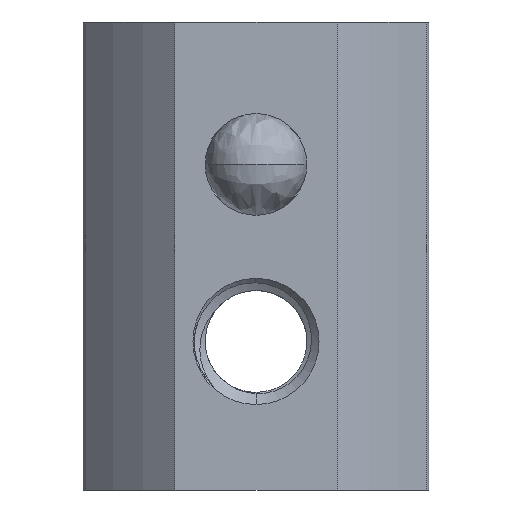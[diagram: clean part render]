
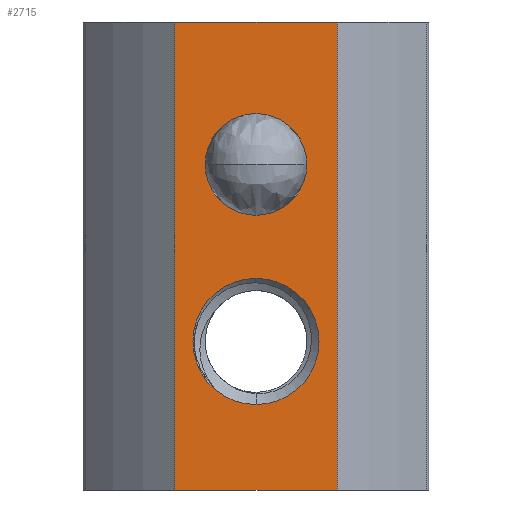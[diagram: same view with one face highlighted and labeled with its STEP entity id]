
A CAD part, front view. The second image highlights one B-rep face of the part: STEP entity #2715.
In plain terms, the highlighted planar face has unit normal (0, -1, 0).
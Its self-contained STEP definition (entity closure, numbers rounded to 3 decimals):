
#169 = ORIENTED_EDGE ( 'NONE', *, *, #2634, .T. ) ;
#191 = AXIS2_PLACEMENT_3D ( 'NONE', #2890, #521, #3604 ) ;
#194 = CARTESIAN_POINT ( 'NONE',  ( -4., -9.6, 0. ) ) ;
#208 = ORIENTED_EDGE ( 'NONE', *, *, #1996, .T. ) ;
#228 = FACE_BOUND ( 'NONE', #2216, .T. ) ;
#250 = DIRECTION ( 'NONE',  ( 0., 1., 0. ) ) ;
#267 = ORIENTED_EDGE ( 'NONE', *, *, #2770, .F. ) ;
#469 = CIRCLE ( 'NONE', #3830, 2.5 ) ;
#475 = CARTESIAN_POINT ( 'NONE',  ( 4., -9.6, 23. ) ) ;
#521 = DIRECTION ( 'NONE',  ( 0., -1., 0. ) ) ;
#563 = CARTESIAN_POINT ( 'NONE',  ( -4., -9.6, 22. ) ) ;
#757 = VECTOR ( 'NONE', #1875, 1000. ) ;
#824 = VERTEX_POINT ( 'NONE', #2337 ) ;
#839 = LINE ( 'NONE', #194, #757 ) ;
#845 = CARTESIAN_POINT ( 'NONE',  ( 4., -9.6, 22. ) ) ;
#850 = FACE_OUTER_BOUND ( 'NONE', #4290, .T. ) ;
#893 = DIRECTION ( 'NONE',  ( -1., 0., 0. ) ) ;
#987 = CARTESIAN_POINT ( 'NONE',  ( 2.5, -9.6, 16. ) ) ;
#1008 = ORIENTED_EDGE ( 'NONE', *, *, #3220, .F. ) ;
#1192 = FACE_BOUND ( 'NONE', #1351, .T. ) ;
#1326 = CIRCLE ( 'NONE', #1899, 3.1 ) ;
#1351 = EDGE_LOOP ( 'NONE', ( #208, #169 ) ) ;
#1376 = CARTESIAN_POINT ( 'NONE',  ( -4., -9.6, 23. ) ) ;
#1398 = LINE ( 'NONE', #1376, #1692 ) ;
#1511 = DIRECTION ( 'NONE',  ( 0., 1., 0. ) ) ;
#1525 = VERTEX_POINT ( 'NONE', #987 ) ;
#1613 = DIRECTION ( 'NONE',  ( -1., 0., 0. ) ) ;
#1629 = ORIENTED_EDGE ( 'NONE', *, *, #3791, .F. ) ;
#1692 = VECTOR ( 'NONE', #3495, 1000. ) ;
#1847 = DIRECTION ( 'NONE',  ( 0., -1., 0. ) ) ;
#1875 = DIRECTION ( 'NONE',  ( -1., 0., 0. ) ) ;
#1899 = AXIS2_PLACEMENT_3D ( 'NONE', #3052, #250, #1613 ) ;
#1904 = AXIS2_PLACEMENT_3D ( 'NONE', #563, #1511, #893 ) ;
#1930 = CARTESIAN_POINT ( 'NONE',  ( -4., -9.6, 22. ) ) ;
#1996 = EDGE_CURVE ( 'NONE', #2246, #3250, #1326, .T. ) ;
#2215 = DIRECTION ( 'NONE',  ( 0., 0., -1. ) ) ;
#2216 = EDGE_LOOP ( 'NONE', ( #1629, #4013 ) ) ;
#2246 = VERTEX_POINT ( 'NONE', #2583 ) ;
#2337 = CARTESIAN_POINT ( 'NONE',  ( -4., -9.6, 0. ) ) ;
#2433 = EDGE_CURVE ( 'NONE', #2643, #4036, #4251, .T. ) ;
#2545 = DIRECTION ( 'NONE',  ( 0., 0., 1. ) ) ;
#2583 = CARTESIAN_POINT ( 'NONE',  ( 0., -9.6, 4.2 ) ) ;
#2600 = VERTEX_POINT ( 'NONE', #3183 ) ;
#2614 = CARTESIAN_POINT ( 'NONE',  ( 4., -9.6, 0. ) ) ;
#2634 = EDGE_CURVE ( 'NONE', #3250, #2246, #2772, .T. ) ;
#2643 = VERTEX_POINT ( 'NONE', #475 ) ;
#2662 = EDGE_CURVE ( 'NONE', #2600, #1525, #469, .T. ) ;
#2708 = VERTEX_POINT ( 'NONE', #3287 ) ;
#2715 = ADVANCED_FACE ( 'NONE', ( #1192, #850, #228 ), #3205, .F. ) ;
#2770 = EDGE_CURVE ( 'NONE', #824, #2708, #2905, .T. ) ;
#2772 = CIRCLE ( 'NONE', #4115, 3.1 ) ;
#2890 = CARTESIAN_POINT ( 'NONE',  ( 0., -9.6, 16. ) ) ;
#2905 = LINE ( 'NONE', #1930, #4334 ) ;
#2940 = ORIENTED_EDGE ( 'NONE', *, *, #3569, .F. ) ;
#2949 = DIRECTION ( 'NONE',  ( 0., 1., 0. ) ) ;
#2984 = VECTOR ( 'NONE', #2215, 1000. ) ;
#3019 = ORIENTED_EDGE ( 'NONE', *, *, #2433, .F. ) ;
#3052 = CARTESIAN_POINT ( 'NONE',  ( 0., -9.6, 7.3 ) ) ;
#3183 = CARTESIAN_POINT ( 'NONE',  ( -2.5, -9.6, 16. ) ) ;
#3205 = PLANE ( 'NONE',  #1904 ) ;
#3220 = EDGE_CURVE ( 'NONE', #4036, #824, #839, .T. ) ;
#3250 = VERTEX_POINT ( 'NONE', #3318 ) ;
#3287 = CARTESIAN_POINT ( 'NONE',  ( -4., -9.6, 23. ) ) ;
#3318 = CARTESIAN_POINT ( 'NONE',  ( 0., -9.6, 10.4 ) ) ;
#3495 = DIRECTION ( 'NONE',  ( 1., 0., 0. ) ) ;
#3569 = EDGE_CURVE ( 'NONE', #2708, #2643, #1398, .T. ) ;
#3604 = DIRECTION ( 'NONE',  ( 1., 0., 0. ) ) ;
#3625 = CARTESIAN_POINT ( 'NONE',  ( 0., -9.6, 16. ) ) ;
#3692 = CIRCLE ( 'NONE', #191, 2.5 ) ;
#3791 = EDGE_CURVE ( 'NONE', #1525, #2600, #3692, .T. ) ;
#3830 = AXIS2_PLACEMENT_3D ( 'NONE', #3625, #1847, #3964 ) ;
#3923 = CARTESIAN_POINT ( 'NONE',  ( 0., -9.6, 7.3 ) ) ;
#3964 = DIRECTION ( 'NONE',  ( 1., 0., 0. ) ) ;
#4013 = ORIENTED_EDGE ( 'NONE', *, *, #2662, .F. ) ;
#4036 = VERTEX_POINT ( 'NONE', #2614 ) ;
#4115 = AXIS2_PLACEMENT_3D ( 'NONE', #3923, #2949, #4256 ) ;
#4251 = LINE ( 'NONE', #845, #2984 ) ;
#4256 = DIRECTION ( 'NONE',  ( -1., 0., 0. ) ) ;
#4290 = EDGE_LOOP ( 'NONE', ( #267, #1008, #3019, #2940 ) ) ;
#4334 = VECTOR ( 'NONE', #2545, 1000. ) ;
